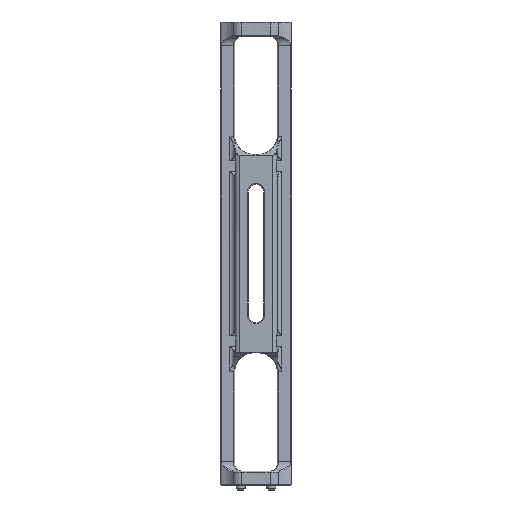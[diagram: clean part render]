
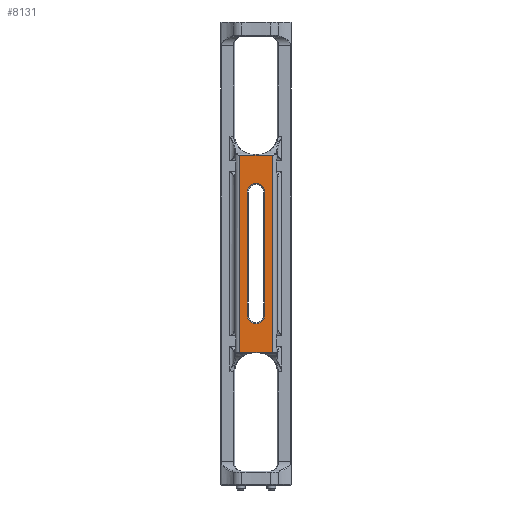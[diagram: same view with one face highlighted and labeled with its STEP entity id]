
A CAD part, front view. The second image highlights one B-rep face of the part: STEP entity #8131.
In plain terms, the highlighted planar face has unit normal (0, -1, 0).
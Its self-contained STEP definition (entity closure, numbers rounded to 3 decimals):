
#78 = CARTESIAN_POINT ( 'NONE',  ( 3.5, 43.598, 69.848 ) ) ;
#126 = CARTESIAN_POINT ( 'NONE',  ( 0., 43.598, 28.152 ) ) ;
#134 = DIRECTION ( 'NONE',  ( 0., 0., 1. ) ) ;
#295 = EDGE_LOOP ( 'NONE', ( #14161, #7342, #17039, #4283, #8201, #17394 ) ) ;
#454 = VERTEX_POINT ( 'NONE', #8897 ) ;
#520 = B_SPLINE_CURVE_WITH_KNOTS ( 'NONE', 3,
 ( #3139, #14276, #12925, #1771 ),
 .UNSPECIFIED., .F., .F.,
 ( 4, 4 ),
 ( 0., 1. ),
 .UNSPECIFIED. ) ;
#604 = VERTEX_POINT ( 'NONE', #14667 ) ;
#685 = ORIENTED_EDGE ( 'NONE', *, *, #7443, .T. ) ;
#724 = CARTESIAN_POINT ( 'NONE',  ( 1.85, 43.598, 62. ) ) ;
#794 = EDGE_CURVE ( 'NONE', #8585, #11267, #3823, .T. ) ;
#1176 = EDGE_LOOP ( 'NONE', ( #685, #8758, #16321, #9578 ) ) ;
#1737 = B_SPLINE_CURVE_WITH_KNOTS ( 'NONE', 3,
 ( #11548, #4661, #8639, #16888 ),
 .UNSPECIFIED., .F., .F.,
 ( 4, 4 ),
 ( 0., 1. ),
 .UNSPECIFIED. ) ;
#1771 = CARTESIAN_POINT ( 'NONE',  ( -3.5, 43.598, 69.848 ) ) ;
#1807 = CARTESIAN_POINT ( 'NONE',  ( 1.167, 43.598, 28.152 ) ) ;
#2017 = EDGE_CURVE ( 'NONE', #7569, #9695, #520, .T. ) ;
#2045 = VECTOR ( 'NONE', #12951, 1000. ) ;
#2222 = CARTESIAN_POINT ( 'NONE',  ( 1.85, 43.598, 36. ) ) ;
#2543 = EDGE_CURVE ( 'NONE', #12491, #604, #6737, .T. ) ;
#2824 = CARTESIAN_POINT ( 'NONE',  ( 3.5, 43.598, 28.152 ) ) ;
#3139 = CARTESIAN_POINT ( 'NONE',  ( 0., 43.598, 69.848 ) ) ;
#3169 = CARTESIAN_POINT ( 'NONE',  ( 0., 43.598, 28.152 ) ) ;
#3214 = CARTESIAN_POINT ( 'NONE',  ( 0., 43.598, 69.848 ) ) ;
#3372 = DIRECTION ( 'NONE',  ( 0., 1., 0. ) ) ;
#3435 = LINE ( 'NONE', #7419, #2045 ) ;
#3488 = B_SPLINE_CURVE_WITH_KNOTS ( 'NONE', 3,
 ( #17333, #16240, #13355, #4929 ),
 .UNSPECIFIED., .F., .F.,
 ( 4, 4 ),
 ( 0., 1. ),
 .UNSPECIFIED. ) ;
#3823 = CIRCLE ( 'NONE', #5859, 1.85 ) ;
#4164 = CARTESIAN_POINT ( 'NONE',  ( 0., 43.598, 62. ) ) ;
#4283 = ORIENTED_EDGE ( 'NONE', *, *, #14033, .T. ) ;
#4661 = CARTESIAN_POINT ( 'NONE',  ( -2.333, 43.598, 28.152 ) ) ;
#4820 = PLANE ( 'NONE',  #9084 ) ;
#4929 = CARTESIAN_POINT ( 'NONE',  ( 0., 43.598, 69.848 ) ) ;
#4994 = LINE ( 'NONE', #7712, #17465 ) ;
#5809 = DIRECTION ( 'NONE',  ( 0., 0., 1. ) ) ;
#5859 = AXIS2_PLACEMENT_3D ( 'NONE', #4164, #10977, #11063 ) ;
#6259 = VECTOR ( 'NONE', #14628, 1000. ) ;
#6615 = EDGE_CURVE ( 'NONE', #15110, #7569, #3488, .T. ) ;
#6698 = CARTESIAN_POINT ( 'NONE',  ( -3.5, 43.598, 69.848 ) ) ;
#6737 = CIRCLE ( 'NONE', #9060, 1.85 ) ;
#7032 = VECTOR ( 'NONE', #16546, 1000. ) ;
#7342 = ORIENTED_EDGE ( 'NONE', *, *, #6615, .T. ) ;
#7419 = CARTESIAN_POINT ( 'NONE',  ( -3.5, 43.598, 12.311 ) ) ;
#7443 = EDGE_CURVE ( 'NONE', #604, #8585, #9664, .T. ) ;
#7569 = VERTEX_POINT ( 'NONE', #3214 ) ;
#7712 = CARTESIAN_POINT ( 'NONE',  ( 1.85, 43.598, 12.311 ) ) ;
#8131 = ADVANCED_FACE ( 'NONE', ( #12977, #16956 ), #4820, .F. ) ;
#8201 = ORIENTED_EDGE ( 'NONE', *, *, #9762, .T. ) ;
#8585 = VERTEX_POINT ( 'NONE', #9098 ) ;
#8639 = CARTESIAN_POINT ( 'NONE',  ( -1.167, 43.598, 28.152 ) ) ;
#8758 = ORIENTED_EDGE ( 'NONE', *, *, #794, .T. ) ;
#8819 = EDGE_CURVE ( 'NONE', #11267, #12491, #4994, .T. ) ;
#8897 = CARTESIAN_POINT ( 'NONE',  ( -3.5, 43.598, 28.152 ) ) ;
#9060 = AXIS2_PLACEMENT_3D ( 'NONE', #12557, #16710, #134 ) ;
#9084 = AXIS2_PLACEMENT_3D ( 'NONE', #15679, #3372, #5809 ) ;
#9098 = CARTESIAN_POINT ( 'NONE',  ( -1.85, 43.598, 62. ) ) ;
#9102 = CARTESIAN_POINT ( 'NONE',  ( 3.5, 43.598, 12.311 ) ) ;
#9578 = ORIENTED_EDGE ( 'NONE', *, *, #2543, .T. ) ;
#9664 = LINE ( 'NONE', #15188, #7032 ) ;
#9695 = VERTEX_POINT ( 'NONE', #6698 ) ;
#9762 = EDGE_CURVE ( 'NONE', #454, #14716, #1737, .T. ) ;
#10048 = VERTEX_POINT ( 'NONE', #2824 ) ;
#10977 = DIRECTION ( 'NONE',  ( 0., 1., 0. ) ) ;
#11063 = DIRECTION ( 'NONE',  ( 0., 0., 1. ) ) ;
#11267 = VERTEX_POINT ( 'NONE', #724 ) ;
#11548 = CARTESIAN_POINT ( 'NONE',  ( -3.5, 43.598, 28.152 ) ) ;
#12491 = VERTEX_POINT ( 'NONE', #2222 ) ;
#12557 = CARTESIAN_POINT ( 'NONE',  ( 0., 43.598, 36. ) ) ;
#12925 = CARTESIAN_POINT ( 'NONE',  ( -2.333, 43.598, 69.848 ) ) ;
#12951 = DIRECTION ( 'NONE',  ( 0., 0., -1. ) ) ;
#12977 = FACE_BOUND ( 'NONE', #1176, .T. ) ;
#13251 = DIRECTION ( 'NONE',  ( 0., 0., -1. ) ) ;
#13355 = CARTESIAN_POINT ( 'NONE',  ( 1.167, 43.598, 69.848 ) ) ;
#14033 = EDGE_CURVE ( 'NONE', #9695, #454, #3435, .T. ) ;
#14128 = CARTESIAN_POINT ( 'NONE',  ( 3.5, 43.598, 28.152 ) ) ;
#14161 = ORIENTED_EDGE ( 'NONE', *, *, #17356, .T. ) ;
#14276 = CARTESIAN_POINT ( 'NONE',  ( -1.167, 43.598, 69.848 ) ) ;
#14628 = DIRECTION ( 'NONE',  ( 0., 0., 1. ) ) ;
#14667 = CARTESIAN_POINT ( 'NONE',  ( -1.85, 43.598, 36. ) ) ;
#14716 = VERTEX_POINT ( 'NONE', #126 ) ;
#15110 = VERTEX_POINT ( 'NONE', #78 ) ;
#15188 = CARTESIAN_POINT ( 'NONE',  ( -1.85, 43.598, 12.311 ) ) ;
#15674 = B_SPLINE_CURVE_WITH_KNOTS ( 'NONE', 3,
 ( #3169, #1807, #16841, #14128 ),
 .UNSPECIFIED., .F., .F.,
 ( 4, 4 ),
 ( 0., 1. ),
 .UNSPECIFIED. ) ;
#15679 = CARTESIAN_POINT ( 'NONE',  ( 4.5, 43.598, 12.311 ) ) ;
#15980 = LINE ( 'NONE', #9102, #6259 ) ;
#16240 = CARTESIAN_POINT ( 'NONE',  ( 2.333, 43.598, 69.848 ) ) ;
#16321 = ORIENTED_EDGE ( 'NONE', *, *, #8819, .T. ) ;
#16546 = DIRECTION ( 'NONE',  ( 0., 0., 1. ) ) ;
#16710 = DIRECTION ( 'NONE',  ( 0., 1., 0. ) ) ;
#16796 = EDGE_CURVE ( 'NONE', #14716, #10048, #15674, .T. ) ;
#16841 = CARTESIAN_POINT ( 'NONE',  ( 2.333, 43.598, 28.152 ) ) ;
#16888 = CARTESIAN_POINT ( 'NONE',  ( 0., 43.598, 28.152 ) ) ;
#16956 = FACE_OUTER_BOUND ( 'NONE', #295, .T. ) ;
#17039 = ORIENTED_EDGE ( 'NONE', *, *, #2017, .T. ) ;
#17333 = CARTESIAN_POINT ( 'NONE',  ( 3.5, 43.598, 69.848 ) ) ;
#17356 = EDGE_CURVE ( 'NONE', #10048, #15110, #15980, .T. ) ;
#17394 = ORIENTED_EDGE ( 'NONE', *, *, #16796, .T. ) ;
#17465 = VECTOR ( 'NONE', #13251, 1000. ) ;
